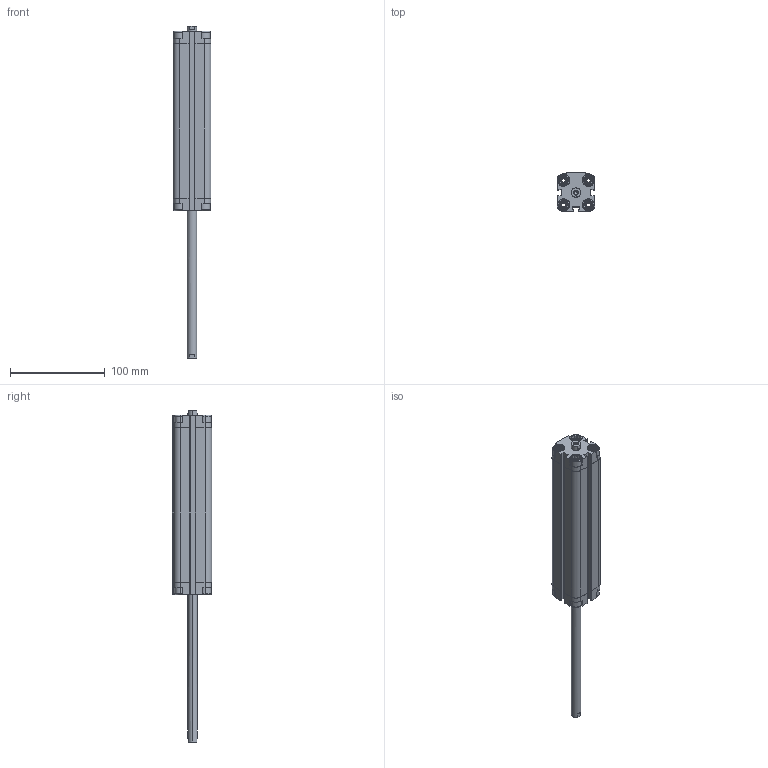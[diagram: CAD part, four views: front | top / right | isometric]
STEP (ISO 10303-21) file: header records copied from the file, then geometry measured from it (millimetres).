
FILE_DESCRIPTION (( 'STEP AP203' ), '1' );
FILE_NAME ('CDVU25-150F-P.STEP', '2020-07-24T18:11:06', ( '' ), ( '' ), 'SwSTEP 2.0', 'SolidWorks 2019', '' );
FILE_SCHEMA (( 'CONFIG_CONTROL_DESIGN' ));
Length unit declared in the file: millimetre
Products named in the file (1): CDVU25-150F-P
Bounding box: 40 x 41.5 x 350.5 mm (x, y, z)
Volume: 196231.4 mm3; surface area: 85525.7 mm2
Topology: 2 solids, 2 shells, 596 faces, 1574 edges, 1016 vertices
Faces by surface type: plane 356, cylinder 176, cone 48, torus 16
Entity records: 18577 total; most frequent: CARTESIAN_POINT 3755, ORIENTED_EDGE 3132, DIRECTION 3000, EDGE_CURVE 1566, AXIS2_PLACEMENT_3D 1029, VERTEX_POINT 1016, LINE 942, VECTOR 942
